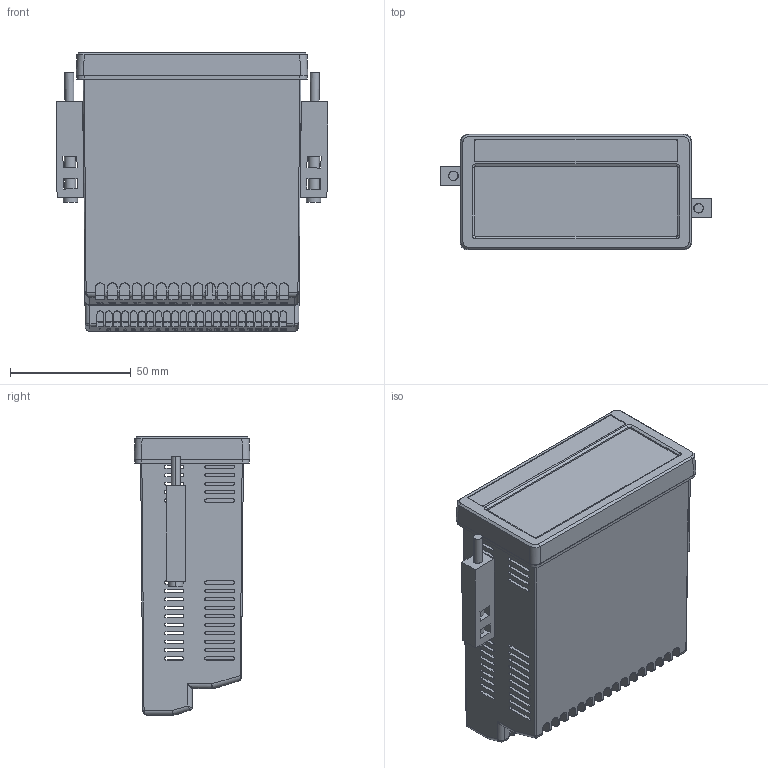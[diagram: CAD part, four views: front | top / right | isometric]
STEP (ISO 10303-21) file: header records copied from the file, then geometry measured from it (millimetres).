
FILE_DESCRIPTION (( 'STEP AP214' ), '1' );
FILE_NAME ('ZSB_57xT_2018_01_25.STEP', '2019-01-25T08:31:56', ( '' ), ( '' ), 'SwSTEP 2.0', 'SolidWorks 2017', '' );
FILE_SCHEMA (( 'AUTOMOTIVE_DESIGN' ));
Length unit declared in the file: millimetre
Products named in the file (6): ZSB_57xT_2018_01_25; dx350_enclosure_20160713; Motrona_DX350_Cover_DIsplay; I-00769-02; Display_90x40x6,1; EPDM_Dichtung
Assembly tree (6 placements, depth 2):
  ZSB_57xT_2018_01_25
    Motrona_DX350_Cover_DIsplay
    Display_90x40x6,1
    I-00769-02  x2
    EPDM_Dichtung
    dx350_enclosure_20160713
Bounding box: 112.61 x 48 x 115.4 mm (x, y, z)
Volume: 34257.7 mm3; surface area: 98799.8 mm2
Topology: 7 solids, 3750 shells, 4151 faces, 28217 edges, 27825 vertices
Faces by surface type: plane 3421, cylinder 353, cone 253, bspline 124
Entity records: 329514 total; most frequent: CARTESIAN_POINT 99942, DIRECTION 29169, ORIENTED_EDGE 28893, EDGE_CURVE 28091, VERTEX_POINT 27749, LINE 20405, VECTOR 20405, B_SPLINE_CURVE_WITH_KNOTS 7199
